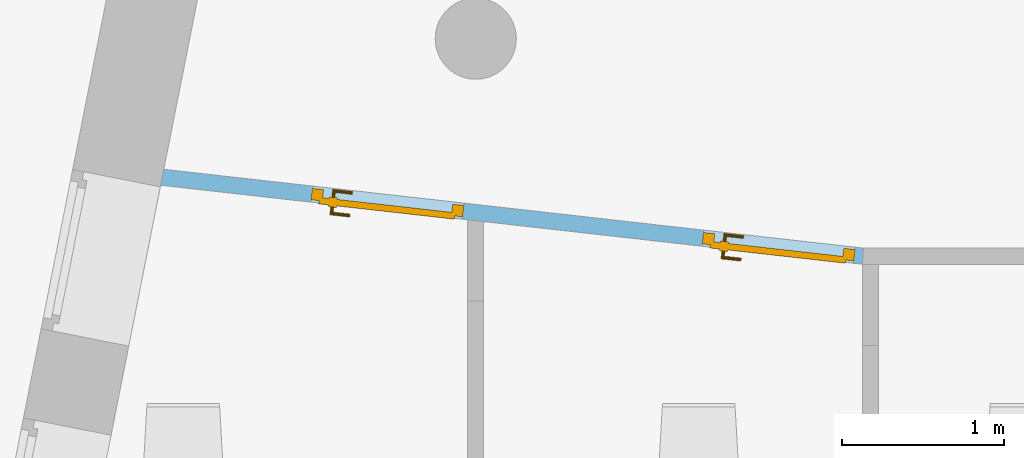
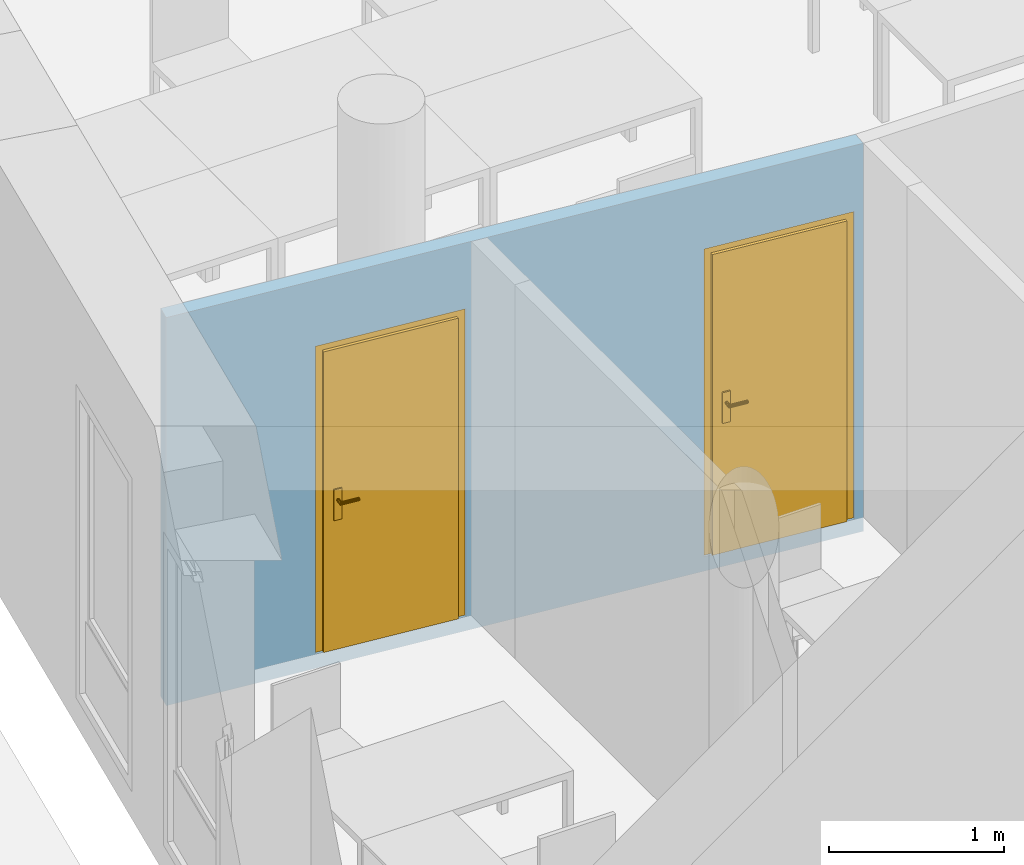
"""IFC4 building model written with IfcOpenShell, lengths in metres."""

from ifc_helpers import new_model, entity, si_unit, converted_unit, derived_unit, frame, origin, origin_with_axes, place, context, subcontext, project, spatial, polyline, outline, extrude, faceted_brep, source, transform, mapped, material, layer, layer_set, layer_usage, element, fill, save


model = new_model("IFC4")

# Units and contexts
model_context = context("Model", 3, precision=1e-05, world=origin())
body_context = subcontext(model_context, "Body", "Model", "MODEL_VIEW")
ifc_project = project(units=[si_unit("LENGTHUNIT", "METRE"), si_unit("AREAUNIT", "SQUARE_METRE"), si_unit("VOLUMEUNIT", "CUBIC_METRE"), si_unit("MASSUNIT", "GRAM", prefix="KILO"), converted_unit("PLANEANGLEUNIT", "DEGREE", entity("IfcPlaneAngleMeasure", 0.0174532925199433), si_unit("PLANEANGLEUNIT", "RADIAN"), dimensions=[0, 0, 0, 0, 0, 0, 0]), derived_unit("THERMALTRANSMITTANCEUNIT", [(si_unit("POWERUNIT", "WATT"), 1), (si_unit("THERMODYNAMICTEMPERATUREUNIT", "KELVIN"), -1), (si_unit("LENGTHUNIT", "METRE"), -2)]), derived_unit("VOLUMETRICFLOWRATEUNIT", [(si_unit("LENGTHUNIT", "METRE"), 3), (converted_unit("TIMEUNIT", "hour", entity("IfcTimeMeasure", 3600.0), si_unit("TIMEUNIT", "SECOND"), dimensions=[0, 0, 1, 0, 0, 0, 0]), -1), (si_unit("LENGTHUNIT", "METRE"), -1)])], contexts=[model_context])

# Building, storeys
building_placement = place(None, origin())
building = spatial("IfcBuilding", under=ifc_project, at=building_placement, Name="HABITATGE PLURIFAMILIAR", CompositionType="ELEMENT")
storey_1_placement = place(building_placement, frame((0.0, 0.0, 6.25)))
storey_1 = spatial("IfcBuildingStorey", under=building, at=storey_1_placement, Name="PLANTA PRIMERA", CompositionType="ELEMENT", Elevation=6.25)
storey_2_placement = place(storey_1_placement, frame((0.0, 0.0, 3.35)))
storey_2 = spatial("IfcBuildingStorey", under=storey_1, at=storey_2_placement, Name="NOU", CompositionType="PARTIAL")

# Wall, openings, doors
ifc_material = material()
ifc_layer = layer(ifc_material, 0.100000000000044)
ifc_layer_set = layer_set([ifc_layer])
ifc_layer_usage = layer_usage(ifc_layer_set, "AXIS2", "POSITIVE", 0.0)
wall_placement = place(storey_2_placement, frame((403.375181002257, 16.5094598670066, -3.45), z_axis=(0.0, 0.0, 1.0), x_axis=(-0.993715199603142, 0.111937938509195, 0.0)))
wall = element("IfcWall", 1, at=wall_placement, inside=storey_2, material=ifc_layer_usage, Name="Mampara P1", context=body_context, shape_type="SweptSolid", body=[
    extrude(outline(polyline([(-4.29149829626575, -0.584052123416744), (0.0461136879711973, -0.584052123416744), (0.0545264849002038, -0.484052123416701), (-4.29711283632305, -0.48405212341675), (-4.29149829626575, -0.584052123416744)])), frame((4.29149829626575, 0.584052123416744, 0.0), z_axis=(0.0, 0.0, 1.0), x_axis=(1.0, 0.0, 0.0)), (0.0, 0.0, 1.0), 2.71),
])
opening_1_placement = place(wall_placement, frame((0.0500000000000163, 0.0, 0.1), z_axis=(-2.57500687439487e-13, 1.0, 0.0), x_axis=(0.0, 0.0, 1.0)))
opening_1 = element("IfcOpeningElement", 2, at=opening_1_placement, cuts=wall, Name="Vano de puerta P1", ObjectType="Opening", context=body_context, shape_type="SweptSolid", body=[
    extrude(outline(polyline([(2.15, 0.94), (2.15, 0.0), (0.0, 0.0), (0.0, 0.94), (2.15, 0.94)])), origin_with_axes(), (0.0, 0.0, 1.0), 0.0999999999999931),
])
opening_2_placement = place(wall_placement, frame((2.47503778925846, 0.0, 0.1), z_axis=(-2.81943357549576e-13, 1.0, 0.0), x_axis=(0.0, 0.0, 1.0)))
opening_2 = element("IfcOpeningElement", 3, at=opening_2_placement, cuts=wall, Name="Vano de puerta P1", ObjectType="Opening", context=body_context, shape_type="SweptSolid", body=[
    extrude(outline(polyline([(2.15, 0.94), (2.15, 0.0), (0.0, 0.0), (0.0, 0.94), (2.15, 0.94)])), origin_with_axes(), (0.0, 0.0, 1.0), 0.100000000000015),
])
shared_shape_1 = source(origin_with_axes(), body_context, "Body", "Brep", [
    faceted_brep([(0.940000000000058, 0.0699999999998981, 2.15), (0.87, 0.0699999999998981, 2.15), (0.87, 0.0699999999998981, 0.0), (0.940000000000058, 0.0699999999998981, 0.0), (0.94, 0.0, 0.0), (0.869999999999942, 0.0, 0.0), (0.869999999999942, 0.0, 2.15), (0.94, 0.0, 2.15)], [[[0, 1, 2, 3]], [[4, 5, 6, 7]], [[3, 4, 7, 0]], [[2, 5, 4, 3]], [[1, 6, 5, 2]], [[0, 7, 6, 1]]], orient=[[False], [False], [False], [False], [False], [False]]),
    faceted_brep([(0.07, 0.0699999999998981, 2.15), (0.0, 0.0699999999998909, 2.15), (0.0, 0.0699999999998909, 0.0), (0.07, 0.0699999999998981, 0.0), (0.07, 0.0, 0.0), (0.0, 0.0, 0.0), (0.0, 0.0, 2.15), (0.07, 0.0, 2.15)], [[[0, 1, 2, 3]], [[4, 5, 6, 7]], [[3, 4, 7, 0]], [[2, 5, 4, 3]], [[1, 6, 5, 2]], [[0, 7, 6, 1]]], orient=[[False], [False], [False], [False], [False], [False]]),
    faceted_brep([(0.87, 0.0699999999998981, 2.15), (0.07, 0.0699999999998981, 2.15), (0.07, 0.0699999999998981, 2.08), (0.87, 0.0699999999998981, 2.08), (0.869999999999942, 0.0, 2.08), (0.07, 0.0, 2.08), (0.07, 0.0, 2.15), (0.869999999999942, 0.0, 2.15)], [[[0, 1, 2, 3]], [[4, 5, 6, 7]], [[3, 4, 7, 0]], [[2, 5, 4, 3]], [[1, 6, 5, 2]], [[0, 7, 6, 1]]], orient=[[False], [False], [False], [False], [False], [False]]),
    faceted_brep([(0.89, 0.0899999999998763, 2.1), (0.05, 0.089999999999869, 2.1), (0.05, 0.089999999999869, 0.0), (0.89, 0.0899999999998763, 0.0), (0.89, 0.0499999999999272, 0.0), (0.05, 0.0499999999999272, 0.0), (0.05, 0.0499999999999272, 2.1), (0.89, 0.0499999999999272, 2.1)], [[[0, 1, 2, 3]], [[4, 5, 6, 7]], [[3, 4, 7, 0]], [[2, 5, 4, 3]], [[1, 6, 5, 2]], [[0, 7, 6, 1]]], orient=[[False], [False], [False], [False], [False], [False]]),
    faceted_brep([(0.830000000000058, 0.04999999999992, 1.125), (0.78, 0.0499999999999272, 1.125), (0.78, 0.0499999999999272, 0.91), (0.830000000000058, 0.04999999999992, 0.91), (0.829999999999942, 0.0399999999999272, 0.91), (0.780000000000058, 0.0399999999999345, 0.91), (0.780000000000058, 0.0399999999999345, 1.125), (0.829999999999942, 0.0399999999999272, 1.125)], [[[0, 1, 2, 3]], [[4, 5, 6, 7]], [[3, 4, 7, 0]], [[2, 5, 4, 3]], [[1, 6, 5, 2]], [[0, 7, 6, 1]]], orient=[[False], [False], [False], [False], [False], [False]]),
    faceted_brep([(0.805, 0.0399999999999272, 1.06), (0.8, 0.0399999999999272, 1.05866025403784), (0.796339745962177, 0.0399999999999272, 1.055), (0.795, 0.0399999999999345, 1.05), (0.796339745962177, 0.0399999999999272, 1.045), (0.8, 0.0399999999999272, 1.04133974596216), (0.805, 0.0399999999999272, 1.04), (0.81, 0.0399999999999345, 1.04133974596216), (0.813660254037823, 0.0399999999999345, 1.045), (0.815, 0.0399999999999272, 1.05), (0.813660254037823, 0.0399999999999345, 1.055), (0.81, 0.0399999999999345, 1.05866025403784), (0.810000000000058, -0.00500000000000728, 1.05866025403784), (0.805, 0.0, 1.06), (0.813660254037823, -0.0086602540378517, 1.055), (0.815, -0.0100000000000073, 1.05), (0.813660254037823, -0.0086602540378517, 1.045), (0.810000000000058, -0.00500000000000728, 1.04133974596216), (0.805, 0.0, 1.04), (0.8, 0.0049999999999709, 1.04133974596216), (0.796339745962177, 0.0086602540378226, 1.045), (0.795, 0.0099999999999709, 1.05), (0.796339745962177, 0.0086602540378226, 1.055), (0.8, 0.0049999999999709, 1.05866025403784), (0.69, 0.0, 1.06), (0.690000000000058, -0.00500000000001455, 1.05866025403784), (0.69, -0.0086602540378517, 1.055), (0.69, -0.01, 1.05), (0.69, -0.0086602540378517, 1.045), (0.690000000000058, -0.00500000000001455, 1.04133974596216), (0.69, 0.0, 1.04), (0.69, 0.00499999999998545, 1.04133974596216), (0.69, 0.00866025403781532, 1.045), (0.689999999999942, 0.0099999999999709, 1.05), (0.69, 0.00866025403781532, 1.055), (0.69, 0.00499999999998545, 1.05866025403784)], [[[0, 1, 2, 3, 4, 5, 6, 7, 8, 9, 10, 11]], [[0, 11, 12, 13]], [[11, 10, 14, 12]], [[10, 9, 15, 14]], [[9, 8, 16, 15]], [[8, 7, 17, 16]], [[7, 6, 18, 17]], [[6, 5, 19, 18]], [[5, 4, 20, 19]], [[4, 3, 21, 20]], [[3, 2, 22, 21]], [[2, 1, 23, 22]], [[1, 0, 13, 23]], [[24, 25, 26, 27, 28, 29, 30, 31, 32, 33, 34, 35]], [[13, 12, 25, 24]], [[12, 14, 26, 25]], [[14, 15, 27, 26]], [[15, 16, 28, 27]], [[16, 17, 29, 28]], [[17, 18, 30, 29]], [[18, 19, 31, 30]], [[19, 20, 32, 31]], [[20, 21, 33, 32]], [[21, 22, 34, 33]], [[22, 23, 35, 34]], [[23, 13, 24, 35]]], orient=[[False], [False], [False], [False], [False], [False], [False], [False], [False], [False], [False], [False], [False], [False], [False], [False], [False], [False], [False], [False], [False], [False], [False], [False], [False], [False]]),
    faceted_brep([(0.83, 0.089999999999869, 1.125), (0.83, 0.089999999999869, 0.91), (0.78, 0.089999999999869, 0.91), (0.78, 0.089999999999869, 1.125), (0.83, 0.0999999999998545, 0.91), (0.83, 0.0999999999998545, 1.125), (0.779999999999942, 0.0999999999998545, 1.125), (0.779999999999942, 0.0999999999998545, 0.91)], [[[0, 1, 2, 3]], [[4, 5, 6, 7]], [[1, 0, 5, 4]], [[2, 1, 4, 7]], [[3, 2, 7, 6]], [[0, 3, 6, 5]]], orient=[[False], [False], [False], [False], [False], [False]]),
    faceted_brep([(0.805, 0.0999999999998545, 1.06), (0.809999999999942, 0.0999999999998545, 1.05866025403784), (0.813660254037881, 0.0999999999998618, 1.055), (0.815, 0.0999999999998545, 1.05), (0.813660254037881, 0.0999999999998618, 1.045), (0.809999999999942, 0.0999999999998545, 1.04133974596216), (0.805, 0.0999999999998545, 1.04), (0.8, 0.0999999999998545, 1.04133974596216), (0.796339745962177, 0.0999999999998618, 1.045), (0.795, 0.0999999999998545, 1.05), (0.796339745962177, 0.0999999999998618, 1.055), (0.8, 0.0999999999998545, 1.05866025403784), (0.805, 0.139999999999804, 1.06), (0.81, 0.144999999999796, 1.05866025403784), (0.813660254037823, 0.148660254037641, 1.055), (0.815000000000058, 0.149999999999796, 1.05), (0.813660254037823, 0.148660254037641, 1.045), (0.81, 0.144999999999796, 1.04133974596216), (0.805, 0.139999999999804, 1.04), (0.8, 0.134999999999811, 1.04133974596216), (0.796339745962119, 0.131339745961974, 1.045), (0.795000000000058, 0.129999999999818, 1.05), (0.796339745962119, 0.131339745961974, 1.055), (0.8, 0.134999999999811, 1.05866025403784), (0.690000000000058, 0.139999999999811, 1.06), (0.689999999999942, 0.134999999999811, 1.05866025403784), (0.690000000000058, 0.131339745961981, 1.055), (0.69, 0.129999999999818, 1.05), (0.690000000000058, 0.131339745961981, 1.045), (0.689999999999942, 0.134999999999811, 1.04133974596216), (0.690000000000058, 0.139999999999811, 1.04), (0.69, 0.144999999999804, 1.04133974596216), (0.690000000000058, 0.148660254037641, 1.045), (0.69, 0.149999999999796, 1.05), (0.690000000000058, 0.148660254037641, 1.055), (0.69, 0.144999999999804, 1.05866025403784)], [[[0, 1, 2, 3, 4, 5, 6, 7, 8, 9, 10, 11]], [[0, 12, 13, 1]], [[1, 13, 14, 2]], [[2, 14, 15, 3]], [[3, 15, 16, 4]], [[4, 16, 17, 5]], [[5, 17, 18, 6]], [[6, 18, 19, 7]], [[7, 19, 20, 8]], [[8, 20, 21, 9]], [[9, 21, 22, 10]], [[10, 22, 23, 11]], [[11, 23, 12, 0]], [[24, 25, 26, 27, 28, 29, 30, 31, 32, 33, 34, 35]], [[12, 24, 35, 13]], [[13, 35, 34, 14]], [[14, 34, 33, 15]], [[15, 33, 32, 16]], [[16, 32, 31, 17]], [[17, 31, 30, 18]], [[18, 30, 29, 19]], [[19, 29, 28, 20]], [[20, 28, 27, 21]], [[21, 27, 26, 22]], [[22, 26, 25, 23]], [[23, 25, 24, 12]]], orient=[[False], [False], [False], [False], [False], [False], [False], [False], [False], [False], [False], [False], [False], [False], [False], [False], [False], [False], [False], [False], [False], [False], [False], [False], [False], [False]]),
])
door_1_placement = place(opening_1_placement, frame((0.0, 0.0, 0.015), z_axis=(1.0, 0.0, 0.0), x_axis=(0.0, 1.0, -2.57821541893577e-13)))
door_1 = element("IfcDoor", 4, at=door_1_placement, inside=storey_2, Name="Porta P1", OperationType="USERDEFINED", OverallHeight=2.15, OverallWidth=0.94, PredefinedType="DOOR", context=body_context, shape_type="MappedRepresentation", body=[
    mapped(shared_shape_1, transform((0.0, 0.0, 0.0), x_axis=(1.0, 0.0, 0.0), y_axis=(0.0, 1.0, 0.0), z_axis=(0.0, 0.0, 1.0), scale=1.0)),
])
fill(opening_1, door_1)
shared_shape_2 = source(origin_with_axes(), body_context, "Body", "Brep", [
    faceted_brep([(0.94, 0.0699999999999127, 2.15), (0.869999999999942, 0.0699999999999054, 2.15), (0.869999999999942, 0.0699999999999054, 0.0), (0.94, 0.0699999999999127, 0.0), (0.94, 0.0, 0.0), (0.87, 0.0, 0.0), (0.87, 0.0, 2.15), (0.94, 0.0, 2.15)], [[[0, 1, 2, 3]], [[4, 5, 6, 7]], [[3, 4, 7, 0]], [[2, 5, 4, 3]], [[1, 6, 5, 2]], [[0, 7, 6, 1]]], orient=[[False], [False], [False], [False], [False], [False]]),
    faceted_brep([(0.0700000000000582, 0.0699999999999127, 2.15), (0.0, 0.0699999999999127, 2.15), (0.0, 0.0699999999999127, 0.0), (0.0700000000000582, 0.0699999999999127, 0.0), (0.0700000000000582, 0.0, 0.0), (0.0, 0.0, 0.0), (0.0, 0.0, 2.15), (0.0700000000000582, 0.0, 2.15)], [[[0, 1, 2, 3]], [[4, 5, 6, 7]], [[3, 4, 7, 0]], [[2, 5, 4, 3]], [[1, 6, 5, 2]], [[0, 7, 6, 1]]], orient=[[False], [False], [False], [False], [False], [False]]),
    faceted_brep([(0.869999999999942, 0.0699999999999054, 2.15), (0.0700000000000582, 0.0699999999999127, 2.15), (0.0700000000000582, 0.0699999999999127, 2.08), (0.869999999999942, 0.0699999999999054, 2.08), (0.87, 0.0, 2.08), (0.0700000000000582, 0.0, 2.08), (0.0700000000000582, 0.0, 2.15), (0.87, 0.0, 2.15)], [[[0, 1, 2, 3]], [[4, 5, 6, 7]], [[3, 4, 7, 0]], [[2, 5, 4, 3]], [[1, 6, 5, 2]], [[0, 7, 6, 1]]], orient=[[False], [False], [False], [False], [False], [False]]),
    faceted_brep([(0.89, 0.0899999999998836, 2.1), (0.05, 0.0899999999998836, 2.1), (0.05, 0.0899999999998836, 0.0), (0.89, 0.0899999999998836, 0.0), (0.890000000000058, 0.0499999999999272, 0.0), (0.0500000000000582, 0.0499999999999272, 0.0), (0.0500000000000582, 0.0499999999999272, 2.1), (0.890000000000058, 0.0499999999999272, 2.1)], [[[0, 1, 2, 3]], [[4, 5, 6, 7]], [[3, 4, 7, 0]], [[2, 5, 4, 3]], [[1, 6, 5, 2]], [[0, 7, 6, 1]]], orient=[[False], [False], [False], [False], [False], [False]]),
    faceted_brep([(0.83, 0.0499999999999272, 1.125), (0.78, 0.0499999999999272, 1.125), (0.78, 0.0499999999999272, 0.91), (0.83, 0.0499999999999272, 0.91), (0.83, 0.0399999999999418, 0.91), (0.78, 0.0399999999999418, 0.91), (0.78, 0.0399999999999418, 1.125), (0.83, 0.0399999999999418, 1.125)], [[[0, 1, 2, 3]], [[4, 5, 6, 7]], [[3, 4, 7, 0]], [[2, 5, 4, 3]], [[1, 6, 5, 2]], [[0, 7, 6, 1]]], orient=[[False], [False], [False], [False], [False], [False]]),
    faceted_brep([(0.805, 0.0399999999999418, 1.06), (0.8, 0.0399999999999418, 1.05866025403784), (0.796339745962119, 0.0399999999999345, 1.055), (0.795, 0.0399999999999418, 1.05), (0.796339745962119, 0.0399999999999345, 1.045), (0.8, 0.0399999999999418, 1.04133974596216), (0.805, 0.0399999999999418, 1.04), (0.81, 0.0399999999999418, 1.04133974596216), (0.813660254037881, 0.0399999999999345, 1.045), (0.815, 0.0399999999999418, 1.05), (0.813660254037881, 0.0399999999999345, 1.055), (0.81, 0.0399999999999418, 1.05866025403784), (0.81, -0.00500000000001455, 1.05866025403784), (0.805000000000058, 0.0, 1.06), (0.813660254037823, -0.0086602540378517, 1.055), (0.815, -0.0100000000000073, 1.05), (0.813660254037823, -0.0086602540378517, 1.045), (0.81, -0.00500000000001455, 1.04133974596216), (0.805000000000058, 0.0, 1.04), (0.8, 0.00499999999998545, 1.04133974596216), (0.796339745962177, 0.0086602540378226, 1.045), (0.794999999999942, 0.0099999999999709, 1.05), (0.796339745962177, 0.0086602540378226, 1.055), (0.8, 0.00499999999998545, 1.05866025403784), (0.69, 0.0, 1.06), (0.69, -0.00500000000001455, 1.05866025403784), (0.69, -0.0086602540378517, 1.055), (0.689999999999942, -0.0100000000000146, 1.05), (0.69, -0.0086602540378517, 1.045), (0.69, -0.00500000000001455, 1.04133974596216), (0.69, 0.0, 1.04), (0.69, 0.0049999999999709, 1.04133974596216), (0.69, 0.00866025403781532, 1.045), (0.69, 0.0099999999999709, 1.05), (0.69, 0.00866025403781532, 1.055), (0.69, 0.0049999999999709, 1.05866025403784)], [[[0, 1, 2, 3, 4, 5, 6, 7, 8, 9, 10, 11]], [[0, 11, 12, 13]], [[11, 10, 14, 12]], [[10, 9, 15, 14]], [[9, 8, 16, 15]], [[8, 7, 17, 16]], [[7, 6, 18, 17]], [[6, 5, 19, 18]], [[5, 4, 20, 19]], [[4, 3, 21, 20]], [[3, 2, 22, 21]], [[2, 1, 23, 22]], [[1, 0, 13, 23]], [[24, 25, 26, 27, 28, 29, 30, 31, 32, 33, 34, 35]], [[13, 12, 25, 24]], [[12, 14, 26, 25]], [[14, 15, 27, 26]], [[15, 16, 28, 27]], [[16, 17, 29, 28]], [[17, 18, 30, 29]], [[18, 19, 31, 30]], [[19, 20, 32, 31]], [[20, 21, 33, 32]], [[21, 22, 34, 33]], [[22, 23, 35, 34]], [[23, 13, 24, 35]]], orient=[[False], [False], [False], [False], [False], [False], [False], [False], [False], [False], [False], [False], [False], [False], [False], [False], [False], [False], [False], [False], [False], [False], [False], [False], [False], [False]]),
    faceted_brep([(0.829999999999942, 0.0899999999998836, 1.125), (0.829999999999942, 0.0899999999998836, 0.91), (0.78, 0.0899999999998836, 0.91), (0.78, 0.0899999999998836, 1.125), (0.83, 0.099999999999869, 0.91), (0.83, 0.099999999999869, 1.125), (0.78, 0.0999999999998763, 1.125), (0.78, 0.0999999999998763, 0.91)], [[[0, 1, 2, 3]], [[4, 5, 6, 7]], [[1, 0, 5, 4]], [[2, 1, 4, 7]], [[3, 2, 7, 6]], [[0, 3, 6, 5]]], orient=[[False], [False], [False], [False], [False], [False]]),
    faceted_brep([(0.805, 0.0999999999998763, 1.06), (0.810000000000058, 0.0999999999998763, 1.05866025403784), (0.813660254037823, 0.0999999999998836, 1.055), (0.814999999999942, 0.099999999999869, 1.05), (0.813660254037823, 0.0999999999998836, 1.045), (0.810000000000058, 0.0999999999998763, 1.04133974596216), (0.805, 0.0999999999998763, 1.04), (0.8, 0.099999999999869, 1.04133974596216), (0.796339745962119, 0.099999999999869, 1.045), (0.795, 0.0999999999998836, 1.05), (0.796339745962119, 0.099999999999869, 1.055), (0.8, 0.099999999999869, 1.05866025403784), (0.804999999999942, 0.139999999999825, 1.06), (0.81, 0.144999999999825, 1.05866025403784), (0.813660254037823, 0.148660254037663, 1.055), (0.815, 0.149999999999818, 1.05), (0.813660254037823, 0.148660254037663, 1.045), (0.81, 0.144999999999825, 1.04133974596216), (0.804999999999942, 0.139999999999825, 1.04), (0.799999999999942, 0.13499999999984, 1.04133974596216), (0.796339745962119, 0.131339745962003, 1.045), (0.795, 0.12999999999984, 1.05), (0.796339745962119, 0.131339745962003, 1.055), (0.799999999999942, 0.13499999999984, 1.05866025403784), (0.69, 0.139999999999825, 1.06), (0.690000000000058, 0.13499999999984, 1.05866025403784), (0.69, 0.131339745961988, 1.055), (0.69, 0.12999999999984, 1.05), (0.69, 0.131339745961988, 1.045), (0.690000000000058, 0.13499999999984, 1.04133974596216), (0.69, 0.139999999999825, 1.04), (0.69, 0.144999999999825, 1.04133974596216), (0.69, 0.148660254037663, 1.045), (0.689999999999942, 0.149999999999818, 1.05), (0.69, 0.148660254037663, 1.055), (0.69, 0.144999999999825, 1.05866025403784)], [[[0, 1, 2, 3, 4, 5, 6, 7, 8, 9, 10, 11]], [[0, 12, 13, 1]], [[1, 13, 14, 2]], [[2, 14, 15, 3]], [[3, 15, 16, 4]], [[4, 16, 17, 5]], [[5, 17, 18, 6]], [[6, 18, 19, 7]], [[7, 19, 20, 8]], [[8, 20, 21, 9]], [[9, 21, 22, 10]], [[10, 22, 23, 11]], [[11, 23, 12, 0]], [[24, 25, 26, 27, 28, 29, 30, 31, 32, 33, 34, 35]], [[12, 24, 35, 13]], [[13, 35, 34, 14]], [[14, 34, 33, 15]], [[15, 33, 32, 16]], [[16, 32, 31, 17]], [[17, 31, 30, 18]], [[18, 30, 29, 19]], [[19, 29, 28, 20]], [[20, 28, 27, 21]], [[21, 27, 26, 22]], [[22, 26, 25, 23]], [[23, 25, 24, 12]]], orient=[[False], [False], [False], [False], [False], [False], [False], [False], [False], [False], [False], [False], [False], [False], [False], [False], [False], [False], [False], [False], [False], [False], [False], [False], [False], [False]]),
])
door_2_placement = place(opening_2_placement, frame((0.0, 0.0, 0.0150000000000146), z_axis=(1.0, 0.0, 0.0), x_axis=(0.0, 1.0, -2.82260326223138e-13)))
door_2 = element("IfcDoor", 5, at=door_2_placement, inside=storey_2, Name="Porta P1", OperationType="USERDEFINED", OverallHeight=2.15, OverallWidth=0.94, PredefinedType="DOOR", context=body_context, shape_type="MappedRepresentation", body=[
    mapped(shared_shape_2, transform((0.0, 0.0, 0.0), x_axis=(1.0, 0.0, 0.0), y_axis=(0.0, 1.0, 0.0), z_axis=(0.0, 0.0, 1.0), scale=1.0)),
])
fill(opening_2, door_2)

save(model, "model.ifc")
